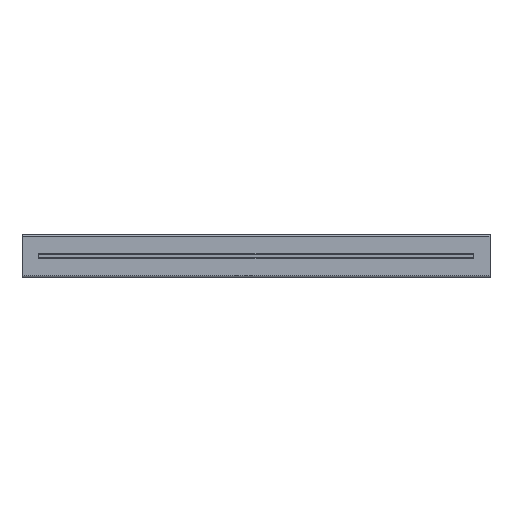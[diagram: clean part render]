
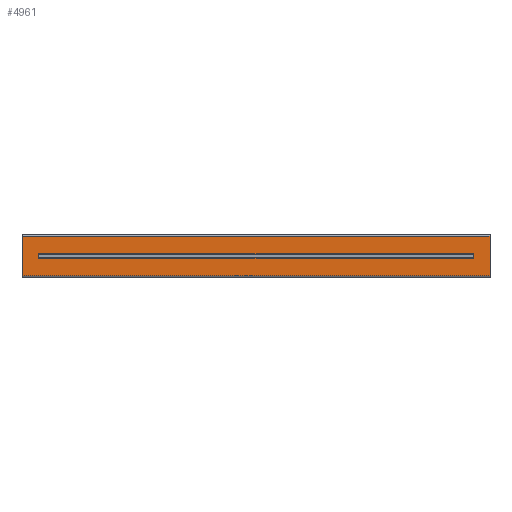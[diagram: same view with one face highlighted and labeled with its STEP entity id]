
A CAD part, front view. The second image highlights one B-rep face of the part: STEP entity #4961.
In plain terms, the highlighted planar face has unit normal (0, -1, 0).
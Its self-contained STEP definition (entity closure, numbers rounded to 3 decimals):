
#52 = CARTESIAN_POINT ( 'NONE',  ( 460., -40., 39.5 ) ) ;
#183 = LINE ( 'NONE', #907, #1272 ) ;
#234 = AXIS2_PLACEMENT_3D ( 'NONE', #345, #3541, #5136 ) ;
#290 = DIRECTION ( 'NONE',  ( 0., 0., 1. ) ) ;
#316 = VECTOR ( 'NONE', #4170, 1000. ) ;
#345 = CARTESIAN_POINT ( 'NONE',  ( -460., -40., 43.5 ) ) ;
#406 = CIRCLE ( 'NONE', #1417, 4. ) ;
#486 = LINE ( 'NONE', #1707, #3597 ) ;
#487 = ORIENTED_EDGE ( 'NONE', *, *, #3305, .T. ) ;
#610 = EDGE_LOOP ( 'NONE', ( #4557, #1616 ) ) ;
#629 = LINE ( 'NONE', #3043, #316 ) ;
#706 = DIRECTION ( 'NONE',  ( 0., 0., 1. ) ) ;
#907 = CARTESIAN_POINT ( 'NONE',  ( -500., -40., 1.5 ) ) ;
#991 = CARTESIAN_POINT ( 'NONE',  ( -460., -40., 39.5 ) ) ;
#996 = CIRCLE ( 'NONE', #3167, 4. ) ;
#1101 = FACE_BOUND ( 'NONE', #610, .T. ) ;
#1136 = ORIENTED_EDGE ( 'NONE', *, *, #1183, .F. ) ;
#1183 = EDGE_CURVE ( 'NONE', #2001, #2823, #183, .T. ) ;
#1272 = VECTOR ( 'NONE', #4572, 1000. ) ;
#1284 = CARTESIAN_POINT ( 'NONE',  ( -500., -40., 0. ) ) ;
#1339 = AXIS2_PLACEMENT_3D ( 'NONE', #2228, #3010, #290 ) ;
#1417 = AXIS2_PLACEMENT_3D ( 'NONE', #2157, #2961, #3746 ) ;
#1425 = CIRCLE ( 'NONE', #234, 4. ) ;
#1530 = PLANE ( 'NONE',  #3493 ) ;
#1541 = VERTEX_POINT ( 'NONE', #4429 ) ;
#1544 = EDGE_LOOP ( 'NONE', ( #487, #4247 ) ) ;
#1551 = ORIENTED_EDGE ( 'NONE', *, *, #3654, .T. ) ;
#1568 = EDGE_LOOP ( 'NONE', ( #2384, #1551, #1136, #1861 ) ) ;
#1616 = ORIENTED_EDGE ( 'NONE', *, *, #3554, .T. ) ;
#1707 = CARTESIAN_POINT ( 'NONE',  ( 500., -40., 0. ) ) ;
#1741 = CARTESIAN_POINT ( 'NONE',  ( -500., -40., 1.5 ) ) ;
#1861 = ORIENTED_EDGE ( 'NONE', *, *, #3630, .T. ) ;
#1923 = FACE_BOUND ( 'NONE', #1544, .T. ) ;
#2001 = VERTEX_POINT ( 'NONE', #2276 ) ;
#2093 = DIRECTION ( 'NONE',  ( 0., 0., 1. ) ) ;
#2157 = CARTESIAN_POINT ( 'NONE',  ( 460., -40., 43.5 ) ) ;
#2228 = CARTESIAN_POINT ( 'NONE',  ( -460., -40., 43.5 ) ) ;
#2259 = VECTOR ( 'NONE', #4526, 1000. ) ;
#2276 = CARTESIAN_POINT ( 'NONE',  ( 500., -40., 1.5 ) ) ;
#2384 = ORIENTED_EDGE ( 'NONE', *, *, #3811, .T. ) ;
#2542 = CARTESIAN_POINT ( 'NONE',  ( 460., -40., 47.5 ) ) ;
#2698 = FACE_OUTER_BOUND ( 'NONE', #1568, .T. ) ;
#2736 = VERTEX_POINT ( 'NONE', #52 ) ;
#2769 = CARTESIAN_POINT ( 'NONE',  ( -460., -40., 47.5 ) ) ;
#2823 = VERTEX_POINT ( 'NONE', #1741 ) ;
#2847 = EDGE_CURVE ( 'NONE', #2736, #3573, #406, .T. ) ;
#2924 = VERTEX_POINT ( 'NONE', #991 ) ;
#2961 = DIRECTION ( 'NONE',  ( 0., 1., 0. ) ) ;
#2972 = EDGE_CURVE ( 'NONE', #4373, #2924, #3411, .T. ) ;
#3010 = DIRECTION ( 'NONE',  ( 0., 1., 0. ) ) ;
#3043 = CARTESIAN_POINT ( 'NONE',  ( 500., -40., 85.5 ) ) ;
#3118 = DIRECTION ( 'NONE',  ( 0., 1., 0. ) ) ;
#3167 = AXIS2_PLACEMENT_3D ( 'NONE', #3761, #3387, #4981 ) ;
#3305 = EDGE_CURVE ( 'NONE', #3573, #2736, #996, .T. ) ;
#3387 = DIRECTION ( 'NONE',  ( 0., 1., 0. ) ) ;
#3411 = CIRCLE ( 'NONE', #1339, 4. ) ;
#3493 = AXIS2_PLACEMENT_3D ( 'NONE', #4296, #3118, #706 ) ;
#3541 = DIRECTION ( 'NONE',  ( 0., 1., 0. ) ) ;
#3554 = EDGE_CURVE ( 'NONE', #2924, #4373, #1425, .T. ) ;
#3573 = VERTEX_POINT ( 'NONE', #2542 ) ;
#3597 = VECTOR ( 'NONE', #2093, 1000. ) ;
#3630 = EDGE_CURVE ( 'NONE', #2001, #4457, #486, .T. ) ;
#3654 = EDGE_CURVE ( 'NONE', #1541, #2823, #4048, .T. ) ;
#3746 = DIRECTION ( 'NONE',  ( 0., 0., 1. ) ) ;
#3761 = CARTESIAN_POINT ( 'NONE',  ( 460., -40., 43.5 ) ) ;
#3811 = EDGE_CURVE ( 'NONE', #4457, #1541, #629, .T. ) ;
#4048 = LINE ( 'NONE', #1284, #2259 ) ;
#4170 = DIRECTION ( 'NONE',  ( -1., 0., 0. ) ) ;
#4247 = ORIENTED_EDGE ( 'NONE', *, *, #2847, .T. ) ;
#4296 = CARTESIAN_POINT ( 'NONE',  ( 0., -40., 0. ) ) ;
#4373 = VERTEX_POINT ( 'NONE', #2769 ) ;
#4429 = CARTESIAN_POINT ( 'NONE',  ( -500., -40., 85.5 ) ) ;
#4457 = VERTEX_POINT ( 'NONE', #4482 ) ;
#4482 = CARTESIAN_POINT ( 'NONE',  ( 500., -40., 85.5 ) ) ;
#4526 = DIRECTION ( 'NONE',  ( 0., 0., -1. ) ) ;
#4557 = ORIENTED_EDGE ( 'NONE', *, *, #2972, .T. ) ;
#4572 = DIRECTION ( 'NONE',  ( -1., 0., 0. ) ) ;
#4961 = ADVANCED_FACE ( 'NONE', ( #1101, #1923, #2698 ), #1530, .F. ) ;
#4981 = DIRECTION ( 'NONE',  ( 0., 0., 1. ) ) ;
#5136 = DIRECTION ( 'NONE',  ( 0., 0., 1. ) ) ;
